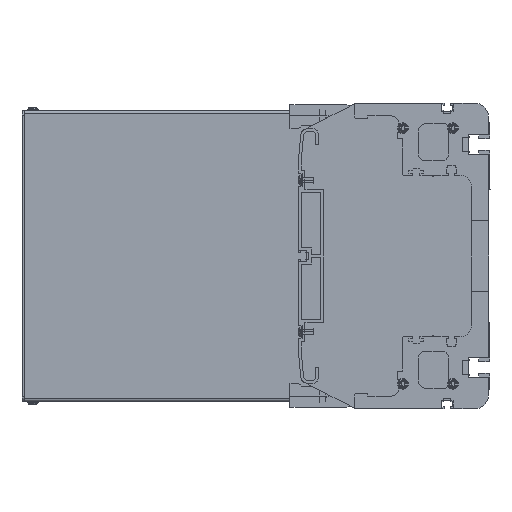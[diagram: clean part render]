
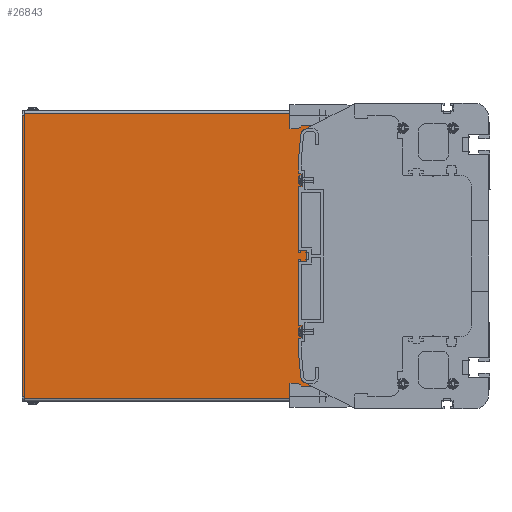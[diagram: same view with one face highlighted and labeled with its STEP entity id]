
A CAD part, left-side view. The second image highlights one B-rep face of the part: STEP entity #26843.
In plain terms, the highlighted planar face has unit normal (-1, 0, 0).
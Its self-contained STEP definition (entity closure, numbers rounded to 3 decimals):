
#3997=DIRECTION('',(0.,0.,1.));
#3998=VECTOR('',#3997,2.8);
#3999=CARTESIAN_POINT('',(-134.5,95.,97.2));
#4000=LINE('',#3999,#3998);
#4297=DIRECTION('',(0.,1.,0.));
#4298=VECTOR('',#4297,1.5);
#4299=CARTESIAN_POINT('',(-134.5,326.,98.5));
#4300=LINE('',#4299,#4298);
#4305=DIRECTION('',(0.,0.,-1.));
#4306=VECTOR('',#4305,1.5);
#4307=CARTESIAN_POINT('',(-134.5,326.,-98.5));
#4308=LINE('',#4307,#4306);
#4309=DIRECTION('',(0.,0.,-1.));
#4310=VECTOR('',#4309,1.5);
#4311=CARTESIAN_POINT('',(-134.5,326.,100.));
#4312=LINE('',#4311,#4310);
#4313=DIRECTION('',(0.,0.,1.));
#4314=VECTOR('',#4313,194.4);
#4315=CARTESIAN_POINT('',(-134.5,95.,-97.2));
#4316=LINE('',#4315,#4314);
#4321=DIRECTION('',(0.,-1.,0.));
#4322=VECTOR('',#4321,1.5);
#4323=CARTESIAN_POINT('',(-134.5,327.5,-98.5));
#4324=LINE('',#4323,#4322);
#4483=DIRECTION('',(0.,0.,-1.));
#4484=VECTOR('',#4483,2.8);
#4485=CARTESIAN_POINT('',(-134.5,95.,-97.2));
#4486=LINE('',#4485,#4484);
#4780=DIRECTION('',(0.,0.,1.));
#4781=VECTOR('',#4780,197.);
#4782=CARTESIAN_POINT('',(-134.5,327.5,-98.5));
#4783=LINE('',#4782,#4781);
#5329=DIRECTION('',(0.,1.,0.));
#5330=VECTOR('',#5329,231.);
#5331=CARTESIAN_POINT('',(-134.5,95.,100.));
#5332=LINE('',#5331,#5330);
#5985=DIRECTION('',(0.,-1.,0.));
#5986=VECTOR('',#5985,231.);
#5987=CARTESIAN_POINT('',(-134.5,326.,-100.));
#5988=LINE('',#5987,#5986);
#16363=CARTESIAN_POINT('',(-134.5,326.,100.));
#16365=VERTEX_POINT('',#16363);
#16368=CARTESIAN_POINT('',(-134.5,326.,-100.));
#16370=VERTEX_POINT('',#16368);
#19335=CARTESIAN_POINT('',(-134.5,327.5,98.5));
#19337=VERTEX_POINT('',#19335);
#19339=CARTESIAN_POINT('',(-134.5,327.5,-98.5));
#19340=VERTEX_POINT('',#19339);
#19819=CARTESIAN_POINT('',(-134.5,95.,-97.2));
#19821=VERTEX_POINT('',#19819);
#19833=CARTESIAN_POINT('',(-134.5,95.,-100.));
#19834=VERTEX_POINT('',#19833);
#19843=CARTESIAN_POINT('',(-134.5,95.,97.2));
#19844=CARTESIAN_POINT('',(-134.5,95.,100.));
#19845=VERTEX_POINT('',#19843);
#19846=VERTEX_POINT('',#19844);
#19884=CARTESIAN_POINT('',(-134.5,326.,98.5));
#19886=VERTEX_POINT('',#19884);
#19887=CARTESIAN_POINT('',(-134.5,326.,-98.5));
#19889=VERTEX_POINT('',#19887);
#26820=CARTESIAN_POINT('',(-134.5,210.5,0.));
#26821=DIRECTION('',(1.,0.,0.));
#26822=DIRECTION('',(0.,0.,1.));
#26823=AXIS2_PLACEMENT_3D('',#26820,#26821,#26822);
#26824=PLANE('',#26823);
#26825=ORIENTED_EDGE('',*,*,#26720,.F.);
#26827=ORIENTED_EDGE('',*,*,#26826,.F.);
#26829=ORIENTED_EDGE('',*,*,#26828,.T.);
#26830=ORIENTED_EDGE('',*,*,#26811,.F.);
#26831=ORIENTED_EDGE('',*,*,#26708,.F.);
#26833=ORIENTED_EDGE('',*,*,#26832,.F.);
#26834=ORIENTED_EDGE('',*,*,#26432,.F.);
#26836=ORIENTED_EDGE('',*,*,#26835,.F.);
#26838=ORIENTED_EDGE('',*,*,#26837,.T.);
#26840=ORIENTED_EDGE('',*,*,#26839,.F.);
#26841=EDGE_LOOP('',(#26825,#26827,#26829,#26830,#26831,#26833,#26834,#26836,
#26838,#26840));
#26842=FACE_OUTER_BOUND('',#26841,.F.);
#26843=ADVANCED_FACE('',(#26842),#26824,.F.);
#26432=EDGE_CURVE('',#19845,#19846,#4000,.T.);
#26708=EDGE_CURVE('',#16365,#19886,#4312,.T.);
#26720=EDGE_CURVE('',#19889,#16370,#4308,.T.);
#26811=EDGE_CURVE('',#19886,#19337,#4300,.T.);
#26826=EDGE_CURVE('',#19340,#19889,#4324,.T.);
#26828=EDGE_CURVE('',#19340,#19337,#4783,.T.);
#26832=EDGE_CURVE('',#19846,#16365,#5332,.T.);
#26835=EDGE_CURVE('',#19821,#19845,#4316,.T.);
#26837=EDGE_CURVE('',#19821,#19834,#4486,.T.);
#26839=EDGE_CURVE('',#16370,#19834,#5988,.T.);
